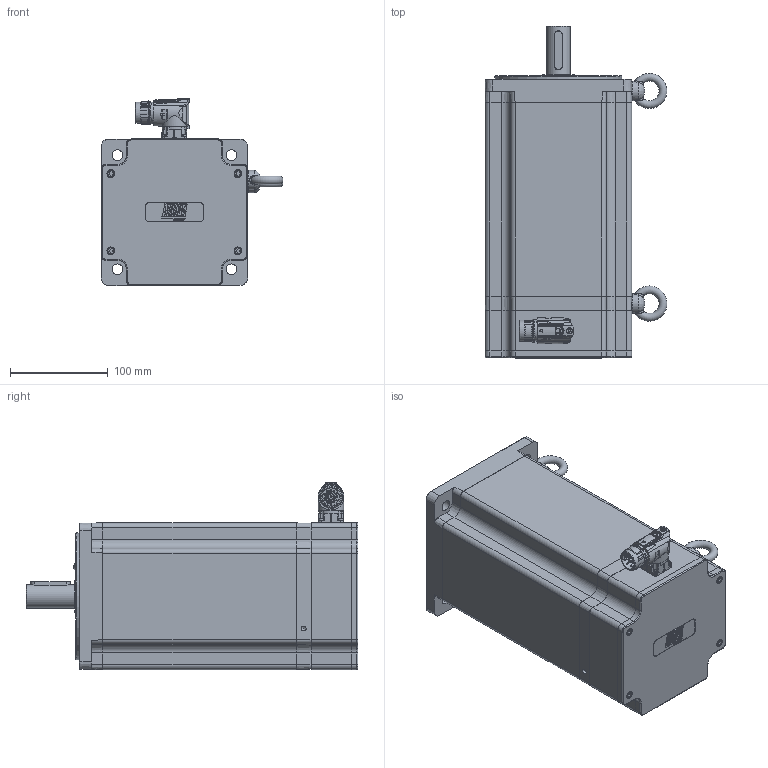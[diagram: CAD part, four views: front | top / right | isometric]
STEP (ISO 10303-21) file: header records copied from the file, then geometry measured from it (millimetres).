
FILE_DESCRIPTION(/* description */ ('Unknown'),/* implementation_level */ '2;1');
FILE_NAME(/* name */ 'TC4-150.6C.XX.X. 3.M1.0.X .C21 Q0C701',/* time_stamp */ '2026-03-06T16:41:45+01:00',/* author */ ('Unknown'),/* organization */ ('Unknown'),/* preprocessor_version */ 'ST-DEVELOPER v19.4',/* originating_system */ 'Solid Edge',/* authorisation */ 'Unknown');
FILE_SCHEMA (('AUTOMOTIVE_DESIGN {1 0 10303 214 3 1 1}'));
Products named in the file (14): Q0C701 6C M1 VUOTO; 003251040619; Distanziale calotta-tappo TC4-150; 005113000600; 005321000040; 005911000252; 003103040237; 007117000456; 005911000223; Coperchio campana TC4-150; 005119002043; 005911000185; 003003200171; 003151003192
Assembly tree (23 placements, depth 2):
  Q0C701 6C M1 VUOTO
    003251040619
    Distanziale calotta-tappo TC4-150
    005113000600
    005321000040  x2
    005911000252  x4
    003103040237
    007117000456
    005911000223  x4
    Coperchio campana TC4-150
    005119002043
    005911000185  x4
    003003200171
    003151003192
Bounding box: 185.98 x 339.5 x 191.5 mm (x, y, z)
Volume: 2276375.8 mm3; surface area: 552758 mm2
Topology: 24 solids, 24 shells, 1792 faces, 4439 edges, 2831 vertices
Faces by surface type: plane 821, cylinder 369, bspline 301, cone 165, torus 114, sphere 22
Full cylindrical faces by diameter (mm): 1 x4, 1.4 x4, 2 x4, 2.013 x4, 2.459 x2, 2.5 x4, 2.8 x4, 3 x8, 3.2 x1, 3.242 x8, 4 x4, 4.134 x16, 4.2 x1, 4.5 x9, 4.7 x4, 4.917 x6, 5 x6, 5.5 x9, 5.8 x1, 5.9 x1, 6 x3, 6.647 x2, 6.8 x1, 7 x4, 8 x8, 8.4 x1, 8.5 x4, 9 x4, 10 x5, 11 x4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
Entity records: 66137 total; most frequent: CARTESIAN_POINT 19252, ORIENTED_EDGE 7444, DIRECTION 6625, EDGE_CURVE 3722, VERTEX_POINT 2549, AXIS2_PLACEMENT_3D 2480, FACE_BOUND 2175, EDGE_LOOP 2155
